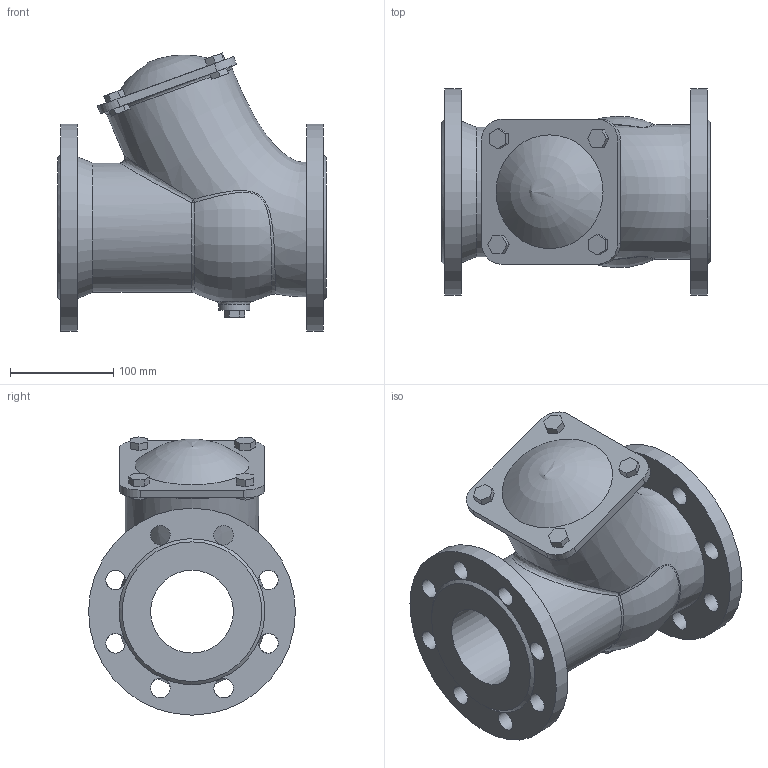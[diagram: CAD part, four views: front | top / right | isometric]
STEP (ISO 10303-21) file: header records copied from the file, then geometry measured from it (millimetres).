
FILE_DESCRIPTION(('STEP AP203'), '1');
FILE_NAME('抔黽鳧 012F.M DN80', '', ('UNSPECIFIED'), ('UNSPECIFIED'), 'ASCON STEP Converter 1.6', 'ASCON Math Kernel', '');
FILE_SCHEMA(('CONFIG_CONTROL_DESIGN'));
Length unit declared in the file: millimetre
Products named in the file (1): Клапан 012F.M DN80
Bounding box: 260 x 200 x 269 mm (x, y, z)
Volume: 4139250.1 mm3; surface area: 330183.3 mm2
Topology: 1 solids, 2 shells, 141 faces, 389 edges, 247 vertices
Faces by surface type: plane 86, cylinder 39, bspline 10, cone 3, torus 3
Full cylindrical faces by diameter (mm): 19 x16, 30 x1, 80 x1, 125 x1, 200 x2
Entity records: 11413 total; most frequent: CARTESIAN_POINT 6798, ORIENTED_EDGE 712, DIRECTION 645, EDGE_CURVE 359, VERTEX_POINT 244, AXIS2_PLACEMENT_3D 227, EDGE_LOOP 217, LINE 191
